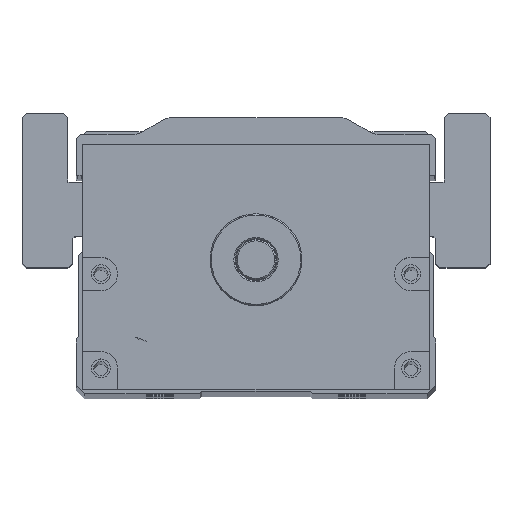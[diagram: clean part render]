
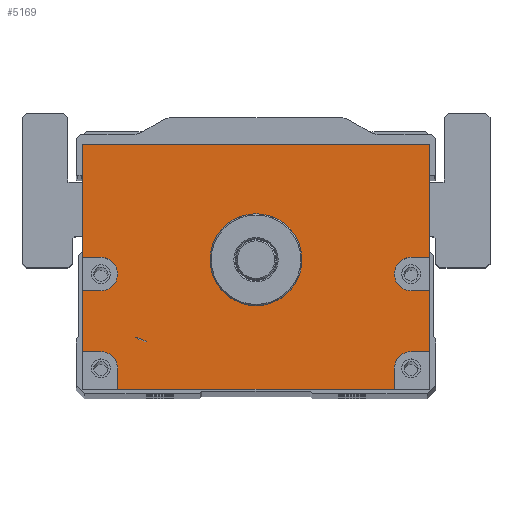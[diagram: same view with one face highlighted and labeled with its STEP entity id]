
A CAD part, top view. The second image highlights one B-rep face of the part: STEP entity #5169.
In plain terms, the highlighted planar face has unit normal (0, 0, 1).
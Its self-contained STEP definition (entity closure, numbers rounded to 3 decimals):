
#3736=FACE_BOUND('',#6896,.T.);
#3737=FACE_BOUND('',#6897,.T.);
#4273=CIRCLE('',#15861,11.);
#4284=CIRCLE('',#15875,4.);
#4285=CIRCLE('',#15876,4.);
#4286=CIRCLE('',#15877,4.);
#4287=CIRCLE('',#15878,4.);
#5169=ADVANCED_FACE('',(#3736,#3737),#5695,.T.);
#5695=PLANE('',#15879);
#6896=EDGE_LOOP('',(#9229,#9230,#9231,#9232,#9233,#9234,#9235,#9236,#9237,
#9238,#9239,#9240,#9241,#9242,#9243,#9244,#9245,#9246));
#6897=EDGE_LOOP('',(#9247));
#9229=ORIENTED_EDGE('',*,*,#12794,.F.);
#9230=ORIENTED_EDGE('',*,*,#12795,.T.);
#9231=ORIENTED_EDGE('',*,*,#12796,.F.);
#9232=ORIENTED_EDGE('',*,*,#12797,.F.);
#9233=ORIENTED_EDGE('',*,*,#12798,.F.);
#9234=ORIENTED_EDGE('',*,*,#12799,.T.);
#9235=ORIENTED_EDGE('',*,*,#12790,.T.);
#9236=ORIENTED_EDGE('',*,*,#12800,.T.);
#9237=ORIENTED_EDGE('',*,*,#12801,.F.);
#9238=ORIENTED_EDGE('',*,*,#12802,.F.);
#9239=ORIENTED_EDGE('',*,*,#12803,.F.);
#9240=ORIENTED_EDGE('',*,*,#12804,.T.);
#9241=ORIENTED_EDGE('',*,*,#12805,.F.);
#9242=ORIENTED_EDGE('',*,*,#12806,.F.);
#9243=ORIENTED_EDGE('',*,*,#12807,.F.);
#9244=ORIENTED_EDGE('',*,*,#12808,.T.);
#9245=ORIENTED_EDGE('',*,*,#12809,.F.);
#9246=ORIENTED_EDGE('',*,*,#12810,.F.);
#9247=ORIENTED_EDGE('',*,*,#12776,.T.);
#11323=VERTEX_POINT('',#22653);
#11336=VERTEX_POINT('',#22681);
#11337=VERTEX_POINT('',#22683);
#11340=VERTEX_POINT('',#22691);
#11341=VERTEX_POINT('',#22692);
#11342=VERTEX_POINT('',#22694);
#11343=VERTEX_POINT('',#22696);
#11344=VERTEX_POINT('',#22698);
#11345=VERTEX_POINT('',#22700);
#11346=VERTEX_POINT('',#22703);
#11347=VERTEX_POINT('',#22705);
#11348=VERTEX_POINT('',#22707);
#11349=VERTEX_POINT('',#22709);
#11350=VERTEX_POINT('',#22711);
#11351=VERTEX_POINT('',#22713);
#11352=VERTEX_POINT('',#22715);
#11353=VERTEX_POINT('',#22717);
#11354=VERTEX_POINT('',#22719);
#11355=VERTEX_POINT('',#22721);
#12776=EDGE_CURVE('',#11323,#11323,#4273,.T.);
#12790=EDGE_CURVE('',#11337,#11336,#13997,.T.);
#12794=EDGE_CURVE('',#11340,#11341,#13999,.T.);
#12795=EDGE_CURVE('',#11340,#11342,#14000,.T.);
#12796=EDGE_CURVE('',#11343,#11342,#14001,.T.);
#12797=EDGE_CURVE('',#11344,#11343,#4284,.T.);
#12798=EDGE_CURVE('',#11345,#11344,#14002,.T.);
#12799=EDGE_CURVE('',#11345,#11337,#14003,.T.);
#12800=EDGE_CURVE('',#11336,#11346,#14004,.T.);
#12801=EDGE_CURVE('',#11347,#11346,#14005,.T.);
#12802=EDGE_CURVE('',#11348,#11347,#4285,.T.);
#12803=EDGE_CURVE('',#11349,#11348,#14006,.T.);
#12804=EDGE_CURVE('',#11349,#11350,#14007,.T.);
#12805=EDGE_CURVE('',#11351,#11350,#14008,.T.);
#12806=EDGE_CURVE('',#11352,#11351,#4286,.T.);
#12807=EDGE_CURVE('',#11353,#11352,#14009,.T.);
#12808=EDGE_CURVE('',#11353,#11354,#14010,.T.);
#12809=EDGE_CURVE('',#11355,#11354,#14011,.T.);
#12810=EDGE_CURVE('',#11341,#11355,#4287,.T.);
#13997=LINE('',#22682,#14848);
#13999=LINE('',#22690,#14850);
#14000=LINE('',#22693,#14851);
#14001=LINE('',#22695,#14852);
#14002=LINE('',#22699,#14853);
#14003=LINE('',#22701,#14854);
#14004=LINE('',#22702,#14855);
#14005=LINE('',#22704,#14856);
#14006=LINE('',#22708,#14857);
#14007=LINE('',#22710,#14858);
#14008=LINE('',#22712,#14859);
#14009=LINE('',#22716,#14860);
#14010=LINE('',#22718,#14861);
#14011=LINE('',#22720,#14862);
#14848=VECTOR('',#18225,1.);
#14850=VECTOR('',#18233,1.);
#14851=VECTOR('',#18234,1.);
#14852=VECTOR('',#18235,1.);
#14853=VECTOR('',#18238,1.);
#14854=VECTOR('',#18239,1.);
#14855=VECTOR('',#18240,1.);
#14856=VECTOR('',#18241,1.);
#14857=VECTOR('',#18244,1.);
#14858=VECTOR('',#18245,1.);
#14859=VECTOR('',#18246,1.);
#14860=VECTOR('',#18249,1.);
#14861=VECTOR('',#18250,1.);
#14862=VECTOR('',#18251,1.);
#15861=AXIS2_PLACEMENT_3D('',#22652,#18198,#18199);
#15875=AXIS2_PLACEMENT_3D('',#22697,#18236,#18237);
#15876=AXIS2_PLACEMENT_3D('',#22706,#18242,#18243);
#15877=AXIS2_PLACEMENT_3D('',#22714,#18247,#18248);
#15878=AXIS2_PLACEMENT_3D('',#22722,#18252,#18253);
#15879=AXIS2_PLACEMENT_3D('',#22723,#18254,#18255);
#18198=DIRECTION('',(0.,0.,-1.));
#18199=DIRECTION('',(1.,0.,0.));
#18225=DIRECTION('',(-1.,0.,0.));
#18233=DIRECTION('',(-1.,0.,0.));
#18234=DIRECTION('',(0.,1.,0.));
#18235=DIRECTION('',(1.,0.,0.));
#18236=DIRECTION('',(0.,0.,1.));
#18237=DIRECTION('',(1.,0.,0.));
#18238=DIRECTION('',(-1.,0.,0.));
#18239=DIRECTION('',(0.,1.,0.));
#18240=DIRECTION('',(0.,-1.,0.));
#18241=DIRECTION('',(-1.,0.,0.));
#18242=DIRECTION('',(0.,0.,1.));
#18243=DIRECTION('',(1.,0.,0.));
#18244=DIRECTION('',(1.,0.,0.));
#18245=DIRECTION('',(0.,-1.,0.));
#18246=DIRECTION('',(-1.,0.,0.));
#18247=DIRECTION('',(0.,0.,1.));
#18248=DIRECTION('',(1.,0.,0.));
#18249=DIRECTION('',(0.,1.,0.));
#18250=DIRECTION('',(1.,0.,0.));
#18251=DIRECTION('',(0.,-1.,0.));
#18252=DIRECTION('',(0.,0.,1.));
#18253=DIRECTION('',(1.,0.,0.));
#18254=DIRECTION('',(0.,0.,1.));
#18255=DIRECTION('',(1.,0.,0.));
#22652=CARTESIAN_POINT('',(150.,0.,582.5));
#22653=CARTESIAN_POINT('',(161.,0.,582.5));
#22681=CARTESIAN_POINT('',(108.5,27.5,582.5));
#22682=CARTESIAN_POINT('',(191.5,27.5,582.5));
#22683=CARTESIAN_POINT('',(191.5,27.5,582.5));
#22690=CARTESIAN_POINT('',(191.5,-22.,582.5));
#22691=CARTESIAN_POINT('',(191.5,-22.,582.5));
#22692=CARTESIAN_POINT('',(187.115,-22.,582.5));
#22693=CARTESIAN_POINT('',(191.5,-31.,582.5));
#22694=CARTESIAN_POINT('',(191.5,-7.431,582.5));
#22695=CARTESIAN_POINT('',(191.5,-7.431,582.5));
#22696=CARTESIAN_POINT('',(187.115,-7.431,582.5));
#22697=CARTESIAN_POINT('',(187.115,-3.431,582.5));
#22698=CARTESIAN_POINT('',(187.115,0.569,582.5));
#22699=CARTESIAN_POINT('',(191.5,0.569,582.5));
#22700=CARTESIAN_POINT('',(191.5,0.569,582.5));
#22701=CARTESIAN_POINT('',(191.5,-31.,582.5));
#22702=CARTESIAN_POINT('',(108.5,27.5,582.5));
#22703=CARTESIAN_POINT('',(108.5,0.569,582.5));
#22704=CARTESIAN_POINT('',(191.5,0.569,582.5));
#22705=CARTESIAN_POINT('',(112.885,0.569,582.5));
#22706=CARTESIAN_POINT('',(112.885,-3.431,582.5));
#22707=CARTESIAN_POINT('',(112.885,-7.431,582.5));
#22708=CARTESIAN_POINT('',(191.5,-7.431,582.5));
#22709=CARTESIAN_POINT('',(108.5,-7.431,582.5));
#22710=CARTESIAN_POINT('',(108.5,27.5,582.5));
#22711=CARTESIAN_POINT('',(108.5,-22.,582.5));
#22712=CARTESIAN_POINT('',(191.5,-22.,582.5));
#22713=CARTESIAN_POINT('',(112.885,-22.,582.5));
#22714=CARTESIAN_POINT('',(112.885,-26.,582.5));
#22715=CARTESIAN_POINT('',(116.885,-26.,582.5));
#22716=CARTESIAN_POINT('',(116.885,-31.,582.5));
#22717=CARTESIAN_POINT('',(116.885,-31.,582.5));
#22718=CARTESIAN_POINT('',(108.5,-31.,582.5));
#22719=CARTESIAN_POINT('',(183.115,-31.,582.5));
#22720=CARTESIAN_POINT('',(183.115,-31.,582.5));
#22721=CARTESIAN_POINT('',(183.115,-26.,582.5));
#22722=CARTESIAN_POINT('',(187.115,-26.,582.5));
#22723=CARTESIAN_POINT('',(191.5,-31.,582.5));
